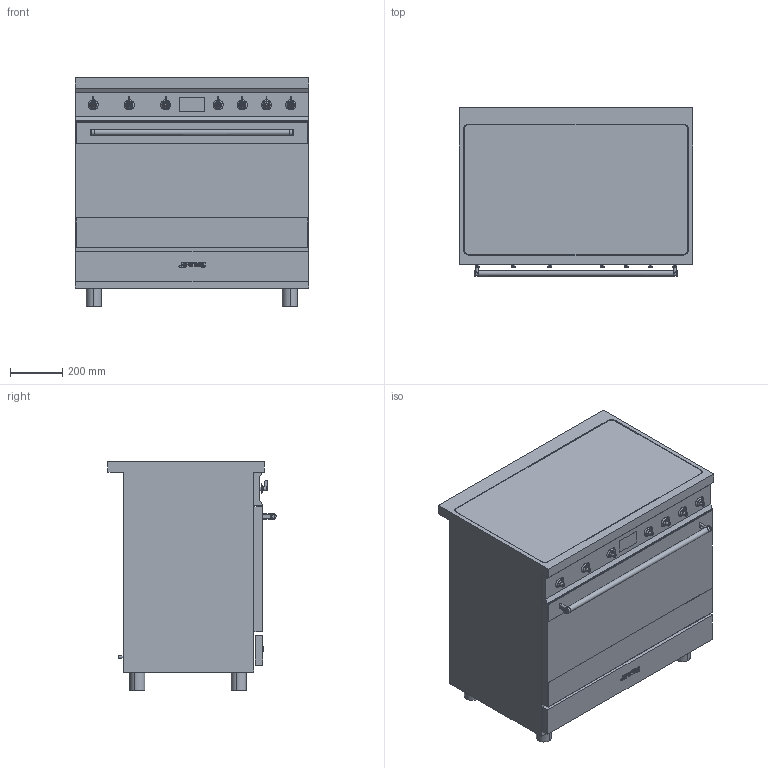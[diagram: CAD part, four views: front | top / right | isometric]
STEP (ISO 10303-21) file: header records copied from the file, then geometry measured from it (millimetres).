
FILE_DESCRIPTION(/* description */ ('Unknown'),/* implementation_level */ '2;1');
FILE_NAME(/* name */ 'C9IMX2',/* time_stamp */ '2025-04-09T17:12:38+02:00',/* author */ ('Unknown'),/* organization */ ('Unknown'),/* preprocessor_version */ 'ST-DEVELOPER v16.7',/* originating_system */ 'DEX',/* authorisation */ $);
FILE_SCHEMA (('AUTOMOTIVE_DESIGN {1 0 10303 214 3 1 1}'));
Length unit declared in the file: millimetre
Products named in the file (1): C9IMX2
Bounding box: 898 x 646.53 x 878.4 mm (x, y, z)
Volume: 387101748.4 mm3; surface area: 6186077.2 mm2
Topology: 5 solids, 5 shells, 360 faces, 900 edges, 610 vertices
Faces by surface type: plane 172, cylinder 141, bspline 43, cone 4
Full cylindrical faces by diameter (mm): 8 x7, 8.5 x7, 8.828 x5, 8.863 x1, 10 x1, 13 x2, 13.5 x2, 14.995 x7, 22 x3, 28 x1
Entity records: 15326 total; most frequent: CARTESIAN_POINT 4530, DIRECTION 1686, ORIENTED_EDGE 1666, EDGE_CURVE 833, AXIS2_PLACEMENT_3D 648, VERTEX_POINT 586, EDGE_LOOP 465, FACE_BOUND 465
